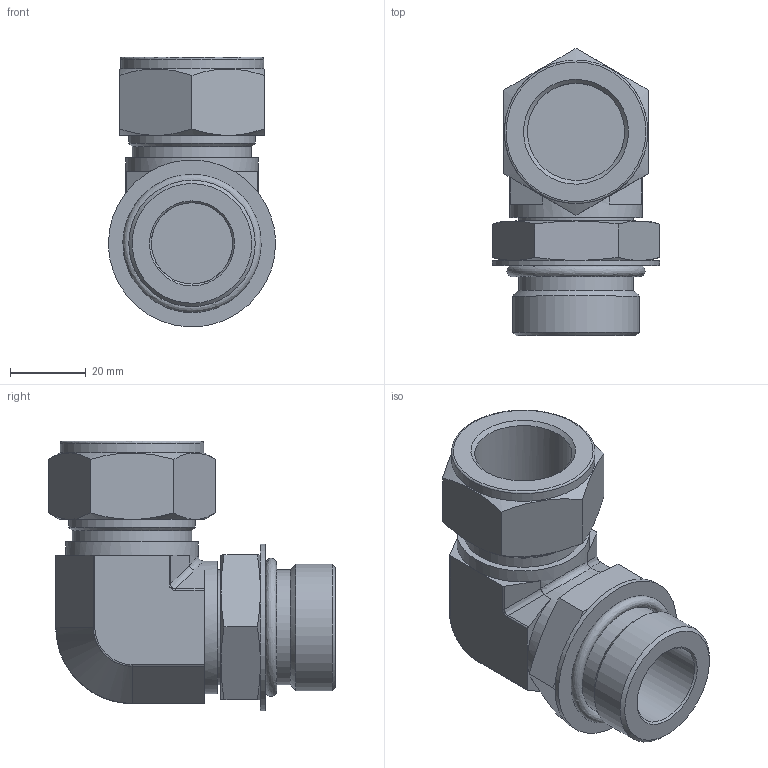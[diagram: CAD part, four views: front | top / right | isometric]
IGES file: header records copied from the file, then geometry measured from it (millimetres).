
Global section: file name: SPME-16-16U; native system: Autodesk Inventor 2016; preprocessor: unknown; author: DESIGNPC2; date: 20160119.094258; units: millimetre
Bounding box: 44 x 75.6 x 71.03 mm (x, y, z)
Volume: 79839.7 mm3; surface area: 25204 mm2
Topology: 4 solids, 4 shells, 121 faces, 290 edges, 184 vertices
Faces by surface type: bspline 121
